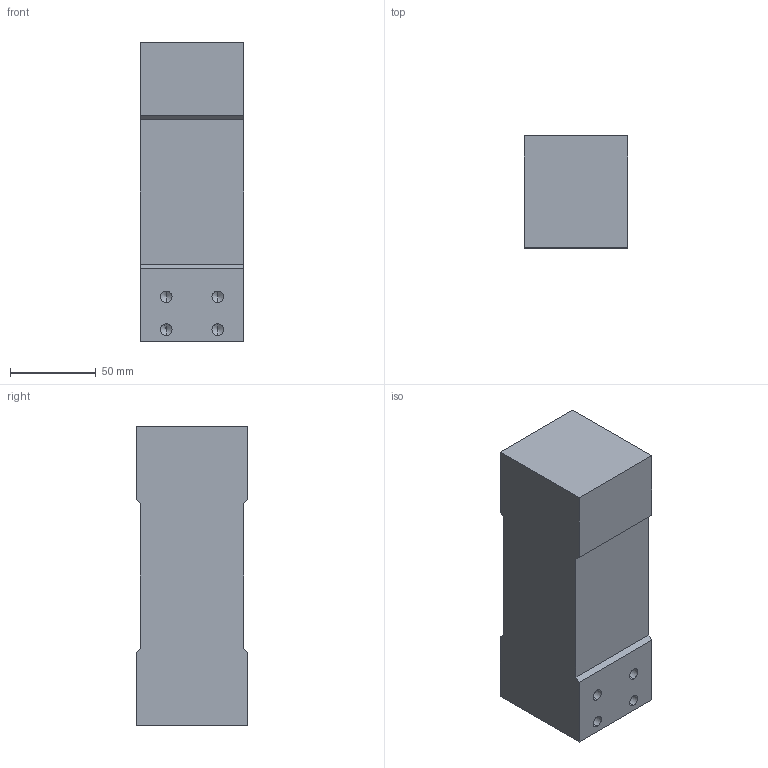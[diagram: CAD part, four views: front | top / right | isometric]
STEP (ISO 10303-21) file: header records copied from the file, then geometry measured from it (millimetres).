
FILE_DESCRIPTION (( 'STEP AP203' ), '1' );
FILE_NAME ('rap3.STEP', '2012-05-07T21:57:27', ( '' ), ( '' ), 'SwSTEP 2.0', 'SolidWorks 2009', '' );
FILE_SCHEMA (( 'CONFIG_CONTROL_DESIGN' ));
Length unit declared in the file: inch
Products named in the file (1): rap3
Bounding box: 60 x 65 x 174 mm (x, y, z)
Volume: 645188.8 mm3; surface area: 55004.5 mm2
Topology: 1 solids, 1 shells, 46 faces, 116 edges, 64 vertices
Faces by surface type: cylinder 16, cone 16, plane 14
Entity records: 1331 total; most frequent: DIRECTION 226, CARTESIAN_POINT 211, ORIENTED_EDGE 200, EDGE_CURVE 100, AXIS2_PLACEMENT_3D 79, LINE 68, VECTOR 68, VERTEX_POINT 64
